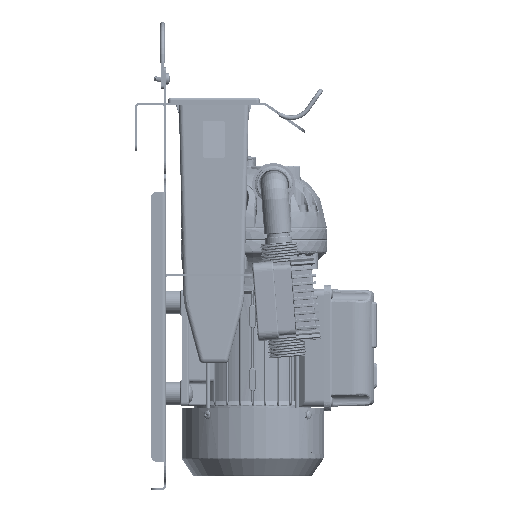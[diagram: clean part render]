
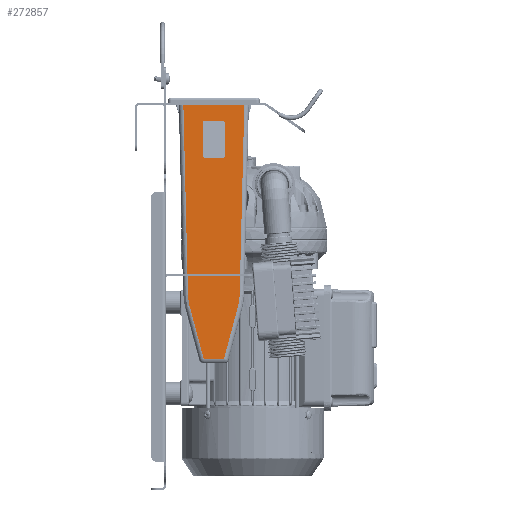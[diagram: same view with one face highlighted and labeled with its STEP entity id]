
A CAD part, left-side view. The second image highlights one B-rep face of the part: STEP entity #272857.
In plain terms, the highlighted planar face has unit normal (-1, 0, 0.027) as drawn and (-1, 0, -0.027) by its records, which use the part's own axes.
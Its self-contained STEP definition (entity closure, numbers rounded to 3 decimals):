
#5646=ELLIPSE('',#289583,2.001,2.);
#5647=ELLIPSE('',#289584,2.001,2.);
#5648=ELLIPSE('',#289585,2.001,2.);
#5649=ELLIPSE('',#289586,2.001,2.);
#22664=FACE_BOUND('',#39939,.T.);
#23864=FACE_OUTER_BOUND('',#39938,.T.);
#39938=EDGE_LOOP('',(#170889,#170890,#170891,#170892,#170893,#170894,#170895,
#170896));
#39939=EDGE_LOOP('',(#170897,#170898,#170899,#170900,#170901,#170902,#170903,
#170904));
#56910=CIRCLE('',#289581,46.032);
#56911=CIRCLE('',#289582,46.032);
#69617=LINE('',#386821,#86410);
#69618=LINE('',#386823,#86411);
#69619=LINE('',#386827,#86412);
#69620=LINE('',#386829,#86413);
#69621=LINE('',#386831,#86414);
#69622=LINE('',#386834,#86415);
#69623=LINE('',#386839,#86416);
#69624=LINE('',#386843,#86417);
#69625=LINE('',#386847,#86418);
#69626=LINE('',#386850,#86419);
#86410=VECTOR('',#317091,1.);
#86411=VECTOR('',#317092,1.);
#86412=VECTOR('',#317095,1.);
#86413=VECTOR('',#317096,1.);
#86414=VECTOR('',#317097,1.);
#86415=VECTOR('',#317100,1.);
#86416=VECTOR('',#317103,1.);
#86417=VECTOR('',#317106,1.);
#86418=VECTOR('',#317109,1.);
#86419=VECTOR('',#317112,1.);
#103214=VERTEX_POINT('',#386819);
#103215=VERTEX_POINT('',#386820);
#103216=VERTEX_POINT('',#386822);
#103217=VERTEX_POINT('',#386824);
#103218=VERTEX_POINT('',#386826);
#103219=VERTEX_POINT('',#386828);
#103220=VERTEX_POINT('',#386830);
#103221=VERTEX_POINT('',#386832);
#103222=VERTEX_POINT('',#386835);
#103223=VERTEX_POINT('',#386836);
#103224=VERTEX_POINT('',#386838);
#103225=VERTEX_POINT('',#386840);
#103226=VERTEX_POINT('',#386842);
#103227=VERTEX_POINT('',#386844);
#103228=VERTEX_POINT('',#386846);
#103229=VERTEX_POINT('',#386848);
#129094=EDGE_CURVE('',#103214,#103215,#69617,.T.);
#129095=EDGE_CURVE('',#103214,#103216,#69618,.T.);
#129096=EDGE_CURVE('',#103216,#103217,#56910,.T.);
#129097=EDGE_CURVE('',#103217,#103218,#69619,.T.);
#129098=EDGE_CURVE('',#103219,#103218,#69620,.T.);
#129099=EDGE_CURVE('',#103219,#103220,#69621,.T.);
#129100=EDGE_CURVE('',#103220,#103221,#56911,.T.);
#129101=EDGE_CURVE('',#103221,#103215,#69622,.T.);
#129102=EDGE_CURVE('',#103222,#103223,#5646,.T.);
#129103=EDGE_CURVE('',#103223,#103224,#69623,.T.);
#129104=EDGE_CURVE('',#103224,#103225,#5647,.T.);
#129105=EDGE_CURVE('',#103225,#103226,#69624,.T.);
#129106=EDGE_CURVE('',#103226,#103227,#5648,.T.);
#129107=EDGE_CURVE('',#103228,#103227,#69625,.T.);
#129108=EDGE_CURVE('',#103228,#103229,#5649,.T.);
#129109=EDGE_CURVE('',#103222,#103229,#69626,.T.);
#170889=ORIENTED_EDGE('',*,*,#129094,.F.);
#170890=ORIENTED_EDGE('',*,*,#129095,.T.);
#170891=ORIENTED_EDGE('',*,*,#129096,.T.);
#170892=ORIENTED_EDGE('',*,*,#129097,.T.);
#170893=ORIENTED_EDGE('',*,*,#129098,.F.);
#170894=ORIENTED_EDGE('',*,*,#129099,.T.);
#170895=ORIENTED_EDGE('',*,*,#129100,.T.);
#170896=ORIENTED_EDGE('',*,*,#129101,.T.);
#170897=ORIENTED_EDGE('',*,*,#129102,.T.);
#170898=ORIENTED_EDGE('',*,*,#129103,.T.);
#170899=ORIENTED_EDGE('',*,*,#129104,.T.);
#170900=ORIENTED_EDGE('',*,*,#129105,.T.);
#170901=ORIENTED_EDGE('',*,*,#129106,.T.);
#170902=ORIENTED_EDGE('',*,*,#129107,.F.);
#170903=ORIENTED_EDGE('',*,*,#129108,.T.);
#170904=ORIENTED_EDGE('',*,*,#129109,.F.);
#251508=PLANE('',#289580);
#272857=ADVANCED_FACE('',(#23864,#22664),#251508,.T.);
#289580=AXIS2_PLACEMENT_3D('',#386818,#317089,#317090);
#289581=AXIS2_PLACEMENT_3D('',#386825,#317093,#317094);
#289582=AXIS2_PLACEMENT_3D('',#386833,#317098,#317099);
#289583=AXIS2_PLACEMENT_3D('',#386837,#317101,#317102);
#289584=AXIS2_PLACEMENT_3D('',#386841,#317104,#317105);
#289585=AXIS2_PLACEMENT_3D('',#386845,#317107,#317108);
#289586=AXIS2_PLACEMENT_3D('',#386849,#317110,#317111);
#317089=DIRECTION('center_axis',(-1.,0.,-0.027));
#317090=DIRECTION('ref_axis',(0.027,0.,-1.));
#317091=DIRECTION('',(0.,1.,0.));
#317092=DIRECTION('',(-0.027,0.024,0.999));
#317093=DIRECTION('center_axis',(-1.,0.,
-0.027));
#317094=DIRECTION('ref_axis',(-0.007,-0.966,0.259));
#317095=DIRECTION('',(-0.026,0.259,0.966));
#317096=DIRECTION('',(0.,-1.,0.));
#317097=DIRECTION('',(0.026,0.259,-0.966));
#317098=DIRECTION('center_axis',(-1.,0.,
-0.027));
#317099=DIRECTION('ref_axis',(-0.001,1.,0.024));
#317100=DIRECTION('',(0.027,0.024,-0.999));
#317101=DIRECTION('center_axis',(1.,0.,0.027));
#317102=DIRECTION('ref_axis',(-0.027,0.,1.));
#317103=DIRECTION('',(0.027,0.,-1.));
#317104=DIRECTION('center_axis',(1.,0.,0.027));
#317105=DIRECTION('ref_axis',(0.027,0.,-1.));
#317106=DIRECTION('',(0.,1.,0.));
#317107=DIRECTION('center_axis',(1.,0.,0.027));
#317108=DIRECTION('ref_axis',(-0.027,0.,1.));
#317109=DIRECTION('',(0.027,0.,-1.));
#317110=DIRECTION('center_axis',(1.,0.,0.027));
#317111=DIRECTION('ref_axis',(0.027,0.,-1.));
#317112=DIRECTION('',(0.,1.,0.));
#386818=CARTESIAN_POINT('Origin',(6.121,-30.75,0.));
#386819=CARTESIAN_POINT('',(6.,-26.636,4.5));
#386820=CARTESIAN_POINT('',(6.,26.636,4.5));
#386821=CARTESIAN_POINT('',(6.,-26.636,4.5));
#386822=CARTESIAN_POINT('',(1.503,-22.548,171.765));
#386823=CARTESIAN_POINT('',(6.,-26.636,4.5));
#386824=CARTESIAN_POINT('',(1.213,-20.995,182.547));
#386825=CARTESIAN_POINT('Origin',(1.533,23.47,170.641));
#386826=CARTESIAN_POINT('',(-0.006,-8.844,227.893));
#386827=CARTESIAN_POINT('',(1.213,-20.995,182.547));
#386828=CARTESIAN_POINT('',(-0.006,8.844,227.893));
#386829=CARTESIAN_POINT('',(-0.006,8.844,227.893));
#386830=CARTESIAN_POINT('',(1.213,20.995,182.547));
#386831=CARTESIAN_POINT('',(-0.006,8.844,227.893));
#386832=CARTESIAN_POINT('',(1.503,22.548,171.765));
#386833=CARTESIAN_POINT('Origin',(1.533,-23.47,170.641));
#386834=CARTESIAN_POINT('',(1.503,22.548,171.765));
#386835=CARTESIAN_POINT('',(4.71,-7.75,52.5));
#386836=CARTESIAN_POINT('',(4.763,-9.75,50.5));
#386837=CARTESIAN_POINT('Origin',(4.763,-7.75,50.5));
#386838=CARTESIAN_POINT('',(5.53,-9.75,22.));
#386839=CARTESIAN_POINT('',(4.763,-9.75,50.5));
#386840=CARTESIAN_POINT('',(5.583,-7.75,20.));
#386841=CARTESIAN_POINT('Origin',(5.53,-7.75,22.));
#386842=CARTESIAN_POINT('',(5.583,7.75,20.));
#386843=CARTESIAN_POINT('',(5.583,-7.75,20.));
#386844=CARTESIAN_POINT('',(5.53,9.75,22.));
#386845=CARTESIAN_POINT('Origin',(5.53,7.75,22.));
#386846=CARTESIAN_POINT('',(4.763,9.75,50.5));
#386847=CARTESIAN_POINT('',(4.763,9.75,50.5));
#386848=CARTESIAN_POINT('',(4.71,7.75,52.5));
#386849=CARTESIAN_POINT('Origin',(4.763,7.75,50.5));
#386850=CARTESIAN_POINT('',(4.71,-7.75,52.5));
